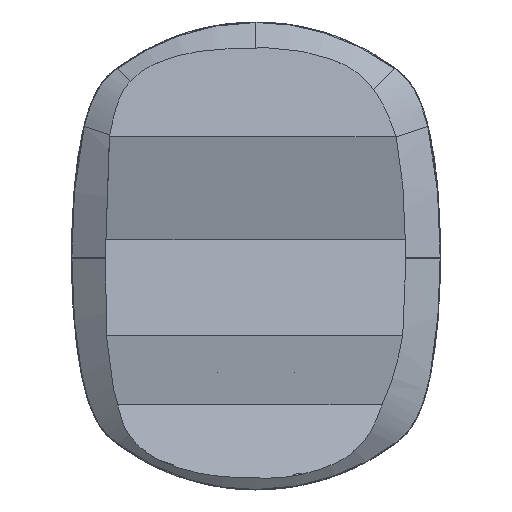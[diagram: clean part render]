
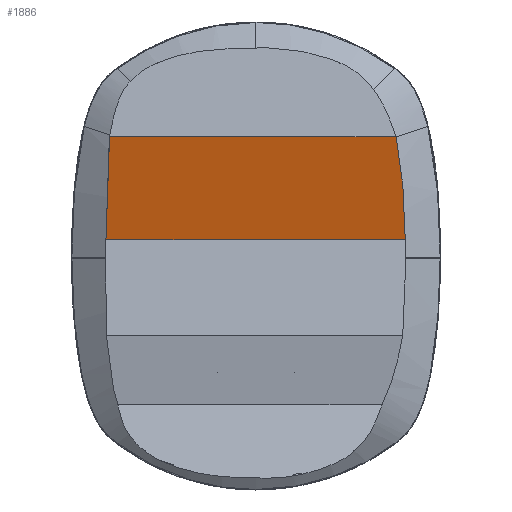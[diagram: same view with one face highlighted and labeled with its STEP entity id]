
A CAD part, left-side view. The second image highlights one B-rep face of the part: STEP entity #1886.
In plain terms, the highlighted planar face has unit normal (-0.967, 0, -0.256).
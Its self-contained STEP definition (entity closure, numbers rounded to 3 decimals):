
#842 = CARTESIAN_POINT ( 'NONE',  ( 79.95, -17.6, 6.687 ) ) ;
#1886 = ADVANCED_FACE ( 'NONE', ( #17433 ), #28554, .F. ) ;
#6114 = B_SPLINE_CURVE_WITH_KNOTS ( 'NONE', 3,
 ( #16245, #17020, #40310, #25038, #32805, #48576 ),
 .UNSPECIFIED., .F., .F.,
 ( 4, 2, 4 ),
 ( 0., 0.007, 0.014 ),
 .UNSPECIFIED. ) ;
#8093 = ORIENTED_EDGE ( 'NONE', *, *, #10112, .T. ) ;
#8848 = CARTESIAN_POINT ( 'NONE',  ( 80.538, -17.695, 4.464 ) ) ;
#8981 = CARTESIAN_POINT ( 'NONE',  ( 77.615, 20.53, 15.522 ) ) ;
#9323 = B_SPLINE_CURVE_WITH_KNOTS ( 'NONE', 3,
 ( #36244, #8848, #842, #36759, #48143, #13224, #12721, #24609 ),
 .UNSPECIFIED., .F., .F.,
 ( 4, 2, 2, 4 ),
 ( 0., 0.007, 0.01, 0.014 ),
 .UNSPECIFIED. ) ;
#10006 = DIRECTION ( 'NONE',  ( 0., 1., 0. ) ) ;
#10112 = EDGE_CURVE ( 'NONE', #45904, #50925, #9323, .T. ) ;
#10507 = LINE ( 'NONE', #29654, #33688 ) ;
#12721 = CARTESIAN_POINT ( 'NONE',  ( 77.905, -16.724, 14.424 ) ) ;
#13026 = DIRECTION ( 'NONE',  ( 0.967, 0., 0.256 ) ) ;
#13224 = CARTESIAN_POINT ( 'NONE',  ( 78.196, -16.901, 13.323 ) ) ;
#15259 = EDGE_CURVE ( 'NONE', #16012, #33395, #6114, .T. ) ;
#16012 = VERTEX_POINT ( 'NONE', #8981 ) ;
#16245 = CARTESIAN_POINT ( 'NONE',  ( 77.615, 20.53, 15.522 ) ) ;
#17020 = CARTESIAN_POINT ( 'NONE',  ( 78.198, 20.786, 13.316 ) ) ;
#17433 = FACE_OUTER_BOUND ( 'NONE', #44320, .T. ) ;
#18790 = LINE ( 'NONE', #26808, #45695 ) ;
#19582 = EDGE_CURVE ( 'NONE', #45904, #33395, #18790, .T. ) ;
#20530 = AXIS2_PLACEMENT_3D ( 'NONE', #48450, #13026, #44311 ) ;
#22922 = DIRECTION ( 'NONE',  ( 0., 1., 0. ) ) ;
#23087 = ORIENTED_EDGE ( 'NONE', *, *, #19582, .F. ) ;
#24609 = CARTESIAN_POINT ( 'NONE',  ( 77.615, -16.506, 15.522 ) ) ;
#25038 = CARTESIAN_POINT ( 'NONE',  ( 79.955, 21.015, 6.667 ) ) ;
#26808 = CARTESIAN_POINT ( 'NONE',  ( 81.127, -19.122, 2.232 ) ) ;
#28554 = PLANE ( 'NONE',  #20530 ) ;
#29654 = CARTESIAN_POINT ( 'NONE',  ( 77.615, -19.122, 15.522 ) ) ;
#32805 = CARTESIAN_POINT ( 'NONE',  ( 80.541, 21.015, 4.45 ) ) ;
#33395 = VERTEX_POINT ( 'NONE', #48295 ) ;
#33688 = VECTOR ( 'NONE', #10006, 1000. ) ;
#34641 = CARTESIAN_POINT ( 'NONE',  ( 81.127, -17.69, 2.232 ) ) ;
#35675 = ORIENTED_EDGE ( 'NONE', *, *, #36286, .T. ) ;
#36244 = CARTESIAN_POINT ( 'NONE',  ( 81.127, -17.69, 2.232 ) ) ;
#36286 = EDGE_CURVE ( 'NONE', #50925, #16012, #10507, .T. ) ;
#36759 = CARTESIAN_POINT ( 'NONE',  ( 79.072, -17.316, 10.011 ) ) ;
#40310 = CARTESIAN_POINT ( 'NONE',  ( 78.783, 20.9, 11.102 ) ) ;
#44311 = DIRECTION ( 'NONE',  ( 0.256, 0., -0.967 ) ) ;
#44320 = EDGE_LOOP ( 'NONE', ( #23087, #8093, #35675, #49946 ) ) ;
#45695 = VECTOR ( 'NONE', #22922, 1000. ) ;
#45904 = VERTEX_POINT ( 'NONE', #34641 ) ;
#48143 = CARTESIAN_POINT ( 'NONE',  ( 78.779, -17.198, 11.116 ) ) ;
#48295 = CARTESIAN_POINT ( 'NONE',  ( 81.127, 20.998, 2.232 ) ) ;
#48450 = CARTESIAN_POINT ( 'NONE',  ( 81.127, -19.122, 2.232 ) ) ;
#48576 = CARTESIAN_POINT ( 'NONE',  ( 81.127, 20.998, 2.232 ) ) ;
#49374 = CARTESIAN_POINT ( 'NONE',  ( 77.615, -16.506, 15.522 ) ) ;
#49946 = ORIENTED_EDGE ( 'NONE', *, *, #15259, .T. ) ;
#50925 = VERTEX_POINT ( 'NONE', #49374 ) ;
